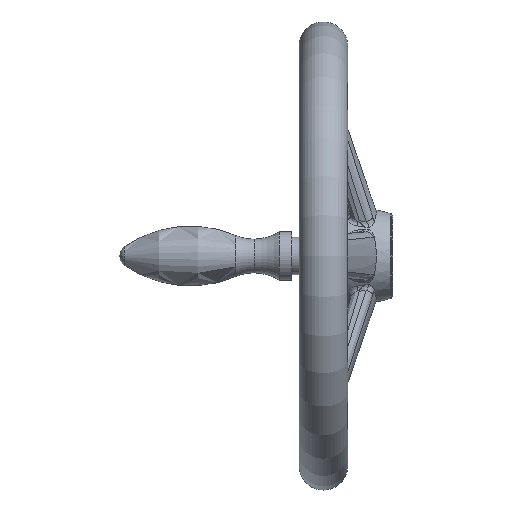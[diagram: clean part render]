
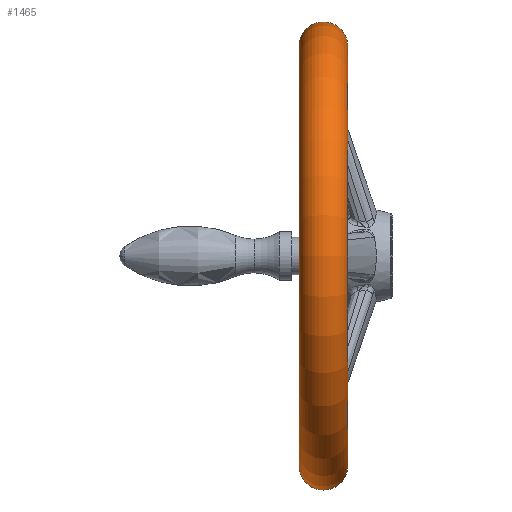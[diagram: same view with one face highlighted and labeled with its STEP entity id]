
A CAD part, left-side view. The second image highlights one B-rep face of the part: STEP entity #1465.
In plain terms, the highlighted toroidal (fillet/blend) face has major radius 111.958 mm and minor radius 13.042 mm.
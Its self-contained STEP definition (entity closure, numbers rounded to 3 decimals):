
#1006 = ORIENTED_EDGE ( 'NONE', *, *, #36315, .T. ) ;
#1460 = EDGE_LOOP ( 'NONE', ( #1468, #1469, #1006, #6249 ) ) ;
#1465 = ADVANCED_FACE ( 'NONE', ( #5390 ), #5413, .T. ) ;
#1468 = ORIENTED_EDGE ( 'NONE', *, *, #9821, .F. ) ;
#1469 = ORIENTED_EDGE ( 'NONE', *, *, #10426, .T. ) ;
#2133 = VERTEX_POINT ( 'NONE', #6804 ) ;
#5390 = FACE_OUTER_BOUND ( 'NONE', #1460, .T. ) ;
#5407 = DIRECTION ( 'NONE',  ( 0., 0., -1. ) ) ;
#5408 = AXIS2_PLACEMENT_3D ( 'NONE', #5414, #5412, #5407 ) ;
#5412 = DIRECTION ( 'NONE',  ( 0., -1., 0. ) ) ;
#5413 = TOROIDAL_SURFACE ( 'NONE', #5408, 111.958, 13.042 ) ;
#5414 = CARTESIAN_POINT ( 'NONE',  ( 0., 37., 0. ) ) ;
#6249 = ORIENTED_EDGE ( 'NONE', *, *, #36121, .F. ) ;
#6804 = CARTESIAN_POINT ( 'NONE',  ( 0., 50., 113. ) ) ;
#9821 = EDGE_CURVE ( 'NONE', #2133, #36102, #30685, .T. ) ;
#10410 = VERTEX_POINT ( 'NONE', #30861 ) ;
#10426 = EDGE_CURVE ( 'NONE', #2133, #10410, #30912, .T. ) ;
#18962 = CARTESIAN_POINT ( 'NONE',  ( 0., 24., 0. ) ) ;
#18964 = CIRCLE ( 'NONE', #18973, 113. ) ;
#18969 = CARTESIAN_POINT ( 'NONE',  ( 0., 24., 113. ) ) ;
#18973 = AXIS2_PLACEMENT_3D ( 'NONE', #18962, #18976, #19012 ) ;
#18975 = CARTESIAN_POINT ( 'NONE',  ( 0., 24., -113. ) ) ;
#18976 = DIRECTION ( 'NONE',  ( 0., -1., 0. ) ) ;
#19012 = DIRECTION ( 'NONE',  ( 0., 0., -1. ) ) ;
#19063 = AXIS2_PLACEMENT_3D ( 'NONE', #19106, #19081, #19092 ) ;
#19064 = CIRCLE ( 'NONE', #19063, 13.042 ) ;
#19081 = DIRECTION ( 'NONE',  ( -1., 0., 0. ) ) ;
#19092 = DIRECTION ( 'NONE',  ( 0., 0., 1. ) ) ;
#19106 = CARTESIAN_POINT ( 'NONE',  ( 0., 37., -111.958 ) ) ;
#30613 = CARTESIAN_POINT ( 'NONE',  ( 0., 37., 111.958 ) ) ;
#30676 = DIRECTION ( 'NONE',  ( 0., 0., -1. ) ) ;
#30677 = DIRECTION ( 'NONE',  ( 1., 0., 0. ) ) ;
#30678 = AXIS2_PLACEMENT_3D ( 'NONE', #30613, #30677, #30676 ) ;
#30685 = CIRCLE ( 'NONE', #30678, 13.042 ) ;
#30861 = CARTESIAN_POINT ( 'NONE',  ( 0., 50., -113. ) ) ;
#30904 = DIRECTION ( 'NONE',  ( 0., 0., -1. ) ) ;
#30905 = DIRECTION ( 'NONE',  ( 0., -1., 0. ) ) ;
#30906 = CARTESIAN_POINT ( 'NONE',  ( 0., 50., 0. ) ) ;
#30907 = AXIS2_PLACEMENT_3D ( 'NONE', #30906, #30905, #30904 ) ;
#30912 = CIRCLE ( 'NONE', #30907, 113. ) ;
#36100 = VERTEX_POINT ( 'NONE', #18975 ) ;
#36102 = VERTEX_POINT ( 'NONE', #18969 ) ;
#36121 = EDGE_CURVE ( 'NONE', #36102, #36100, #18964, .T. ) ;
#36315 = EDGE_CURVE ( 'NONE', #10410, #36100, #19064, .T. ) ;
